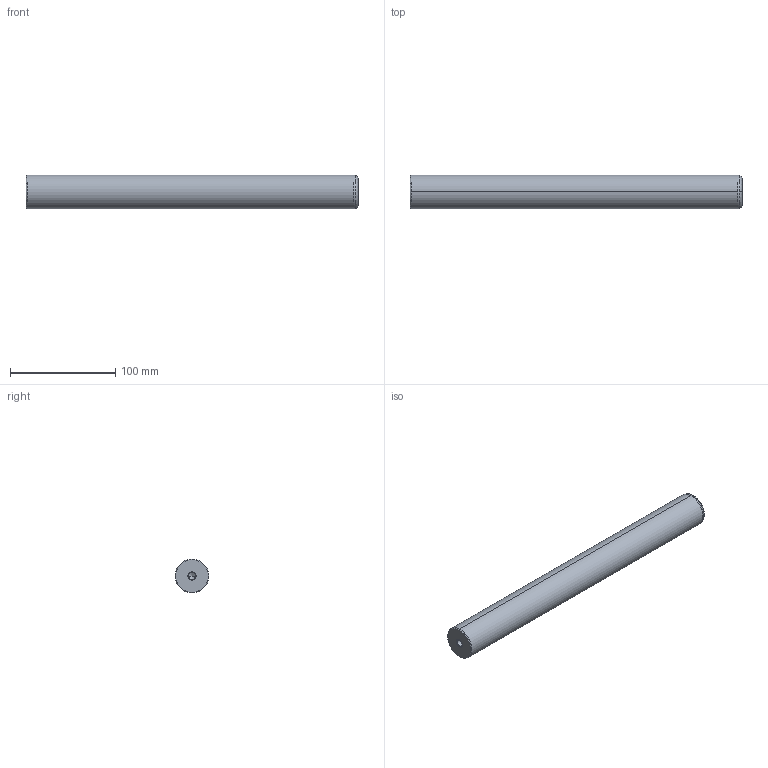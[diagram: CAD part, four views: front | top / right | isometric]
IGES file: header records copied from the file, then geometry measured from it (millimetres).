
Start section: START RECORD GO HERE.
Global section: file name: 720-32x315.igs; native system: DASSAULT SYSTEMES CATIA V5 R20 - www.3ds.com; preprocessor: CATIA Version 5 Release 20 ; author: Utente; organization: NB04-ASUS; date: 20210101.131401; units: millimetre
Bounding box: 315 x 32 x 32 mm (x, y, z)
Surface area: 34060 mm2 (no closed solid volume)
Topology: 0 solids, 0 shells, 22 faces, 120 edges, 116 vertices
Faces by surface type: revolution 20, plane 2
